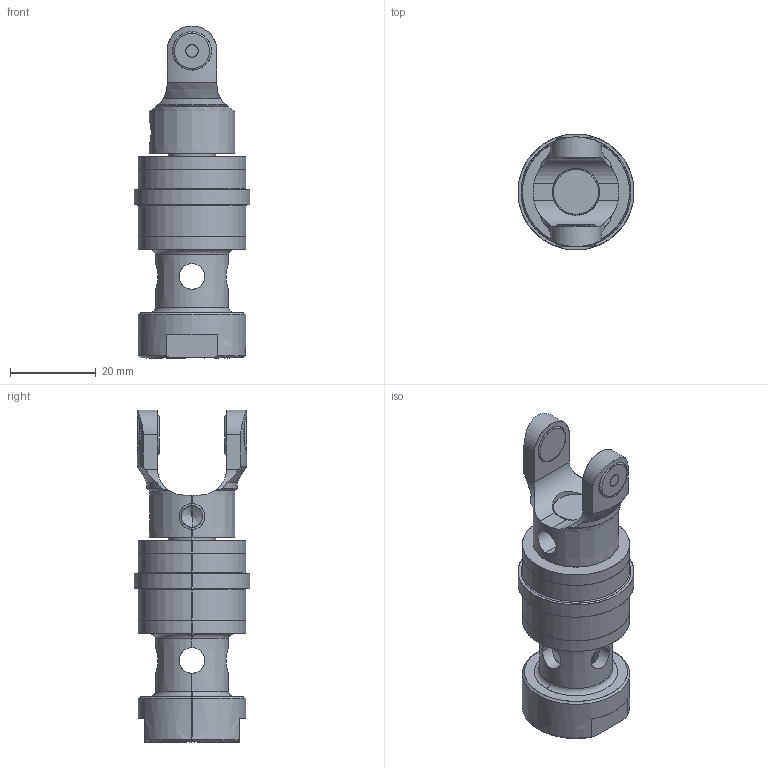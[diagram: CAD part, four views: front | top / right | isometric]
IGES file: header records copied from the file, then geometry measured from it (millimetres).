
Start section: SolidWorks IGES file using analytic representation for surfaces
Global section: file name: C:\Users\SELUHAA\Desktop\Work items\545792\IGES\IRB360_X-1130-WDS-4D_rev03_IGES_J\IRB360_X-1130-WDS-4D_rev03_FACEPLATE_CAD.IGS; native system: SolidWorks 2022; preprocessor: SolidWorks 2022; author: SELUHAA; date: 231204.105504; units: millimetre
Bounding box: 27 x 27 x 77.3 mm (x, y, z)
Surface area: 10522.4 mm2 (no closed solid volume)
Topology: 0 solids, 0 shells, 157 faces, 3075 edges, 3061 vertices
Faces by surface type: revolution 101, bspline 56
